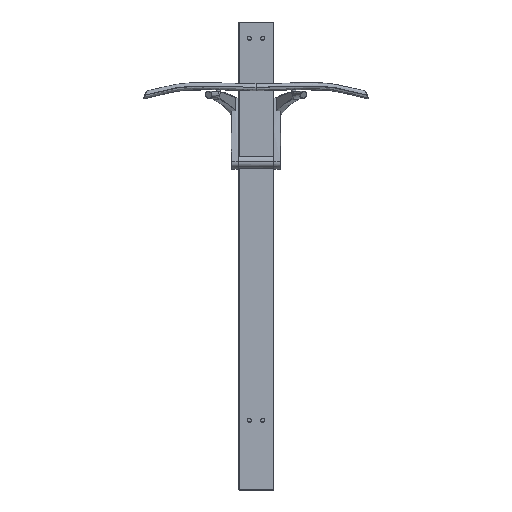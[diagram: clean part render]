
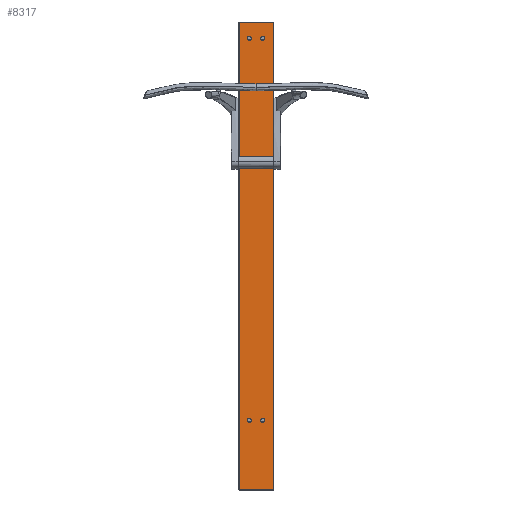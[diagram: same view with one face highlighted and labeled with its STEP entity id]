
A CAD part, front view. The second image highlights one B-rep face of the part: STEP entity #8317.
In plain terms, the highlighted planar face has unit normal (0, -1, 0).
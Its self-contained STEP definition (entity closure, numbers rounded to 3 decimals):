
#323=FACE_BOUND('',#2812,.T.);
#324=FACE_BOUND('',#2813,.T.);
#325=FACE_BOUND('',#2814,.T.);
#326=FACE_BOUND('',#2815,.T.);
#1136=LINE('',#22004,#1644);
#1141=LINE('',#22020,#1649);
#1142=LINE('',#22024,#1650);
#1143=LINE('',#22025,#1651);
#1644=VECTOR('',#10819,10.);
#1649=VECTOR('',#10840,10.);
#1650=VECTOR('',#10845,10.);
#1651=VECTOR('',#10846,10.);
#2273=FACE_OUTER_BOUND('',#2811,.T.);
#2811=EDGE_LOOP('',(#6951,#6952,#6953,#6954));
#2812=EDGE_LOOP('',(#6955));
#2813=EDGE_LOOP('',(#6956));
#2814=EDGE_LOOP('',(#6957));
#2815=EDGE_LOOP('',(#6958));
#3208=CIRCLE('',#9165,11.);
#3209=CIRCLE('',#9166,11.);
#3210=CIRCLE('',#9167,11.);
#3211=CIRCLE('',#9168,11.);
#3955=VERTEX_POINT('',#21998);
#3957=VERTEX_POINT('',#22002);
#3960=VERTEX_POINT('',#22019);
#3961=VERTEX_POINT('',#22023);
#3962=VERTEX_POINT('',#22026);
#3963=VERTEX_POINT('',#22028);
#3964=VERTEX_POINT('',#22030);
#3965=VERTEX_POINT('',#22032);
#5032=EDGE_CURVE('',#3957,#3955,#1136,.T.);
#5040=EDGE_CURVE('',#3955,#3960,#1141,.T.);
#5042=EDGE_CURVE('',#3961,#3957,#1142,.T.);
#5043=EDGE_CURVE('',#3960,#3961,#1143,.T.);
#5044=EDGE_CURVE('',#3962,#3962,#3208,.T.);
#5045=EDGE_CURVE('',#3963,#3963,#3209,.T.);
#5046=EDGE_CURVE('',#3964,#3964,#3210,.T.);
#5047=EDGE_CURVE('',#3965,#3965,#3211,.T.);
#6951=ORIENTED_EDGE('',*,*,#5032,.F.);
#6952=ORIENTED_EDGE('',*,*,#5042,.F.);
#6953=ORIENTED_EDGE('',*,*,#5043,.F.);
#6954=ORIENTED_EDGE('',*,*,#5040,.F.);
#6955=ORIENTED_EDGE('',*,*,#5044,.F.);
#6956=ORIENTED_EDGE('',*,*,#5045,.F.);
#6957=ORIENTED_EDGE('',*,*,#5046,.F.);
#6958=ORIENTED_EDGE('',*,*,#5047,.F.);
#7895=PLANE('',#9164);
#8317=ADVANCED_FACE('',(#2273,#323,#324,#325,#326),#7895,.F.);
#9164=AXIS2_PLACEMENT_3D('',#22022,#10843,#10844);
#9165=AXIS2_PLACEMENT_3D('',#22027,#10847,#10848);
#9166=AXIS2_PLACEMENT_3D('',#22029,#10849,#10850);
#9167=AXIS2_PLACEMENT_3D('',#22031,#10851,#10852);
#9168=AXIS2_PLACEMENT_3D('',#22033,#10853,#10854);
#10819=DIRECTION('',(-1.,0.,0.));
#10840=DIRECTION('',(0.,0.,1.));
#10843=DIRECTION('center_axis',(0.,1.,0.));
#10844=DIRECTION('ref_axis',(1.,0.,0.));
#10845=DIRECTION('',(0.,0.,-1.));
#10846=DIRECTION('',(1.,0.,0.));
#10847=DIRECTION('center_axis',(0.,-1.,0.));
#10848=DIRECTION('ref_axis',(0.,0.,1.));
#10849=DIRECTION('center_axis',(0.,-1.,0.));
#10850=DIRECTION('ref_axis',(0.,0.,1.));
#10851=DIRECTION('center_axis',(0.,-1.,0.));
#10852=DIRECTION('ref_axis',(0.,0.,1.));
#10853=DIRECTION('center_axis',(0.,-1.,0.));
#10854=DIRECTION('ref_axis',(0.,0.,1.));
#21998=CARTESIAN_POINT('',(-89.,0.,1.));
#22002=CARTESIAN_POINT('',(89.,0.,1.));
#22004=CARTESIAN_POINT('',(45.,0.,1.));
#22019=CARTESIAN_POINT('',(-89.,0.,2449.));
#22020=CARTESIAN_POINT('',(-89.,0.,612.5));
#22022=CARTESIAN_POINT('Origin',(0.,0.,1225.));
#22023=CARTESIAN_POINT('',(89.,0.,2449.));
#22024=CARTESIAN_POINT('',(89.,0.,1837.5));
#22025=CARTESIAN_POINT('',(-45.,0.,2449.));
#22026=CARTESIAN_POINT('',(-35.,0.,354.));
#22027=CARTESIAN_POINT('Origin',(-35.,0.,365.));
#22028=CARTESIAN_POINT('',(35.,0.,2354.));
#22029=CARTESIAN_POINT('Origin',(35.,0.,2365.));
#22030=CARTESIAN_POINT('',(-35.,0.,2354.));
#22031=CARTESIAN_POINT('Origin',(-35.,0.,2365.));
#22032=CARTESIAN_POINT('',(35.,0.,354.));
#22033=CARTESIAN_POINT('Origin',(35.,0.,365.));
